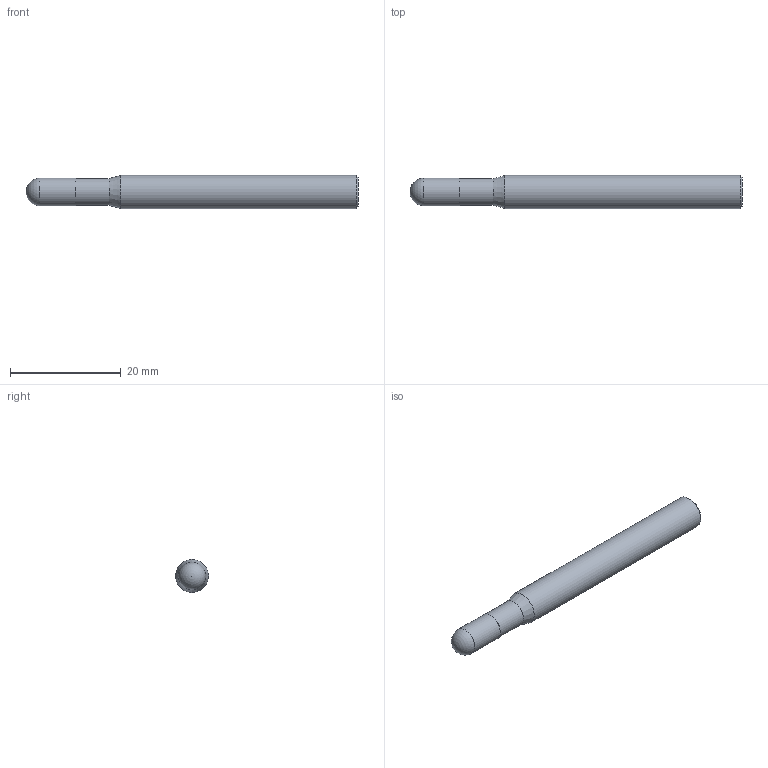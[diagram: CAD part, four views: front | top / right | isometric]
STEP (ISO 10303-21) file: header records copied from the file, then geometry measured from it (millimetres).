
FILE_DESCRIPTION(/* description */ (''),/* implementation_level */ '2;1');
FILE_NAME(/* name */ 'HSXBC4050 0660.stp',/* time_stamp */ '2026-01-27T10:29:25+08:00',/* author */ (''),/* organization */ (''),/* preprocessor_version */ 'ST-DEVELOPER v16',/* originating_system */ 'SIEMENS PLM Software NX 10.0',/* authorisation */ '');
FILE_SCHEMA (('CONFIG_CONTROL_DESIGN'));
Length unit declared in the file: millimetre
Products named in the file (1): HSXBC4050 0660_dxf
Bounding box: 60 x 6 x 6 mm (x, y, z)
Volume: 1531.8 mm3; surface area: 1104.4 mm2
Topology: 1 solids, 1 shells, 8 faces, 15 edges, 9 vertices
Faces by surface type: cylinder 3, plane 2, cone 2, sphere 1
Full cylindrical faces by diameter (mm): 4.85 x1, 5 x1, 6 x1
Entity records: 238 total; most frequent: DIRECTION 32, CARTESIAN_POINT 23, AXIS2_PLACEMENT_3D 16, EDGE_LOOP 14, ORIENTED_EDGE 14, FACE_BOUND 12, ADVANCED_FACE 8, PERSON_AND_ORGANIZATION 7
